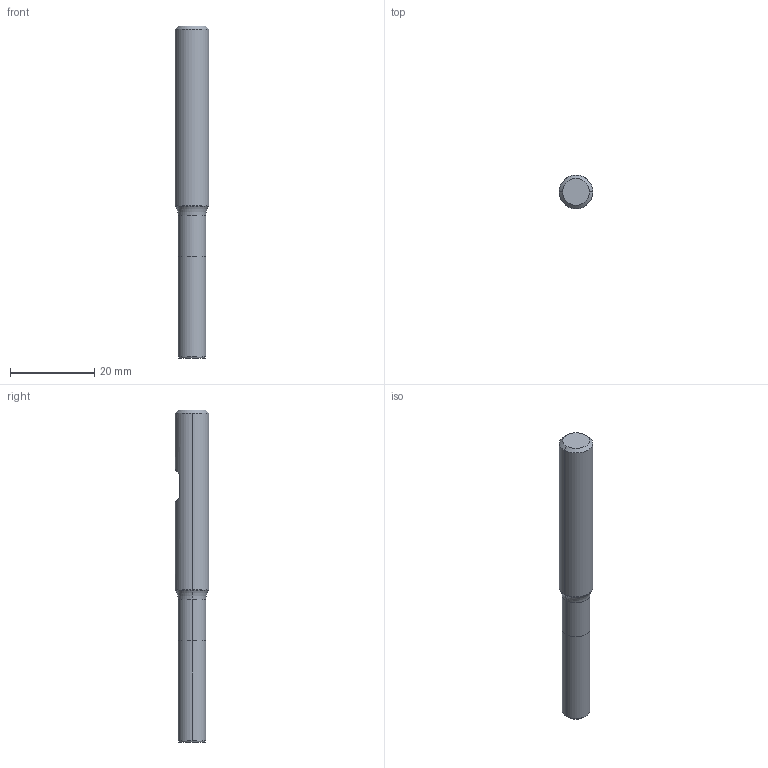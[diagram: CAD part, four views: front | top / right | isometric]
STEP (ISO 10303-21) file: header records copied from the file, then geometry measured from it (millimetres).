
FILE_DESCRIPTION (( 'STEP AP214' ), '1' );
FILE_NAME ('817.066.10_3D-model.step', '2022-02-23T23:28:37', ( '' ), ( '' ), 'SwSTEP 2.0', 'SolidWorks 2020', '' );
FILE_SCHEMA (( 'AUTOMOTIVE_DESIGN' ));
Length unit declared in the file: millimetre
Products named in the file (3): NOCUT-3D^Baugr75; 817.066.10_3D-model; CUT-3D^Baugr75
Assembly tree (2 placements, depth 2):
  817.066.10_3D-model
    CUT-3D^Baugr75
    NOCUT-3D^Baugr75
Bounding box: 8 x 8 x 79 mm (x, y, z)
Volume: 3365.2 mm3; surface area: 1969.5 mm2
Topology: 2 solids, 2 shells, 21 faces, 38 edges, 22 vertices
Faces by surface type: plane 7, cylinder 6, cone 6, torus 2
Entity records: 634 total; most frequent: DIRECTION 114, CARTESIAN_POINT 95, ORIENTED_EDGE 76, AXIS2_PLACEMENT_3D 49, EDGE_CURVE 38, VERTEX_POINT 22, EDGE_LOOP 22, ADVANCED_FACE 21
